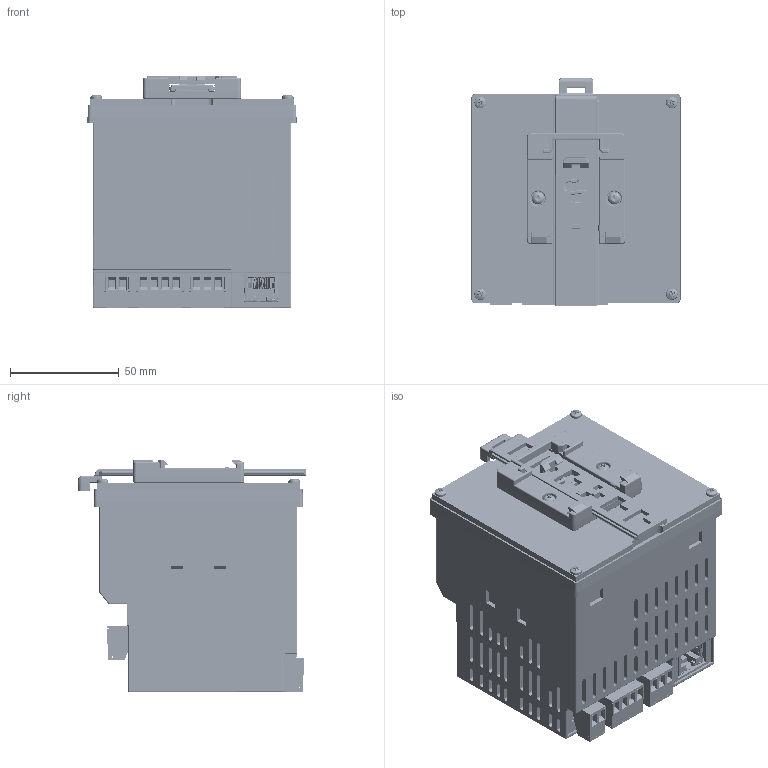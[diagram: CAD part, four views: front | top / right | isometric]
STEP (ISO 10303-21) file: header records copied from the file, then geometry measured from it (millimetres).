
FILE_DESCRIPTION (( 'STEP AP214' ), '1' );
FILE_NAME ('PQ1000 - 3... ..STEP', '2021-07-22T13:31:53', ( '' ), ( '' ), 'SwSTEP 2.0', 'SolidWorks 2019', '' );
FILE_SCHEMA (( 'AUTOMOTIVE_DESIGN' ));
Length unit declared in the file: millimetre
Products named in the file (1): PQ1000 - 3... .
Bounding box: 96 x 105 x 107 mm (x, y, z)
Surface area: 209504.2 mm2 (no closed solid volume)
Topology: 0 solids, 221 shells, 6971 faces, 19389 edges, 12941 vertices
Faces by surface type: plane 4701, cylinder 1292, bspline 800, cone 159, sphere 15, torus 4
Full cylindrical faces by diameter (mm): 2.25 x2, 3.2 x4, 5.3 x4
Entity records: 374416 total; most frequent: CARTESIAN_POINT 154270, ORIENTED_EDGE 37496, EDGE_CURVE 19314, B_SPLINE_CURVE_WITH_KNOTS 16070, DIRECTION 15771, VERTEX_POINT 12929, EDGE_LOOP 7722, UNCERTAINTY_MEASURE_WITH_UNIT 6986
